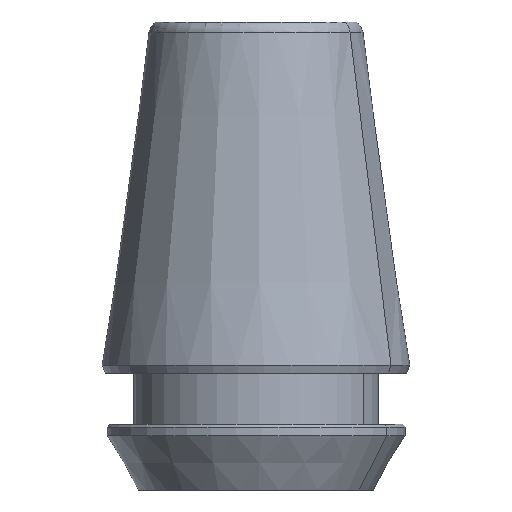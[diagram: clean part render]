
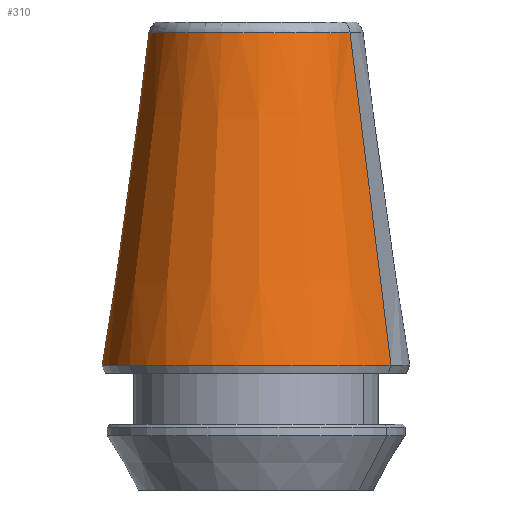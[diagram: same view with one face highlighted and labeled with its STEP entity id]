
A CAD part, front view. The second image highlights one B-rep face of the part: STEP entity #310.
In plain terms, the highlighted conical face has half-angle 8 degrees and reference radius 4.166 mm.
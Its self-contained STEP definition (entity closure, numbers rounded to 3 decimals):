
#254=AXIS2_PLACEMENT_3D('Circle Axis2P3D',#252,#253,$) ;
#275=AXIS2_PLACEMENT_3D('Cone Axis2P3D',#272,#273,#274) ;
#293=AXIS2_PLACEMENT_3D('Circle Axis2P3D',#291,#292,$) ;
#300=AXIS2_PLACEMENT_3D('Circle Axis2P3D',#298,#299,$) ;
#249=CARTESIAN_POINT('Vertex',(-3.656,1.997,-0.415)) ;
#252=CARTESIAN_POINT('Axis2P3D Location',(0.,0.,-0.415)) ;
#256=CARTESIAN_POINT('Vertex',(3.656,-1.997,-0.415)) ;
#272=CARTESIAN_POINT('Axis2P3D Location',(0.,0.,-0.415)) ;
#277=CARTESIAN_POINT('Line Origine',(61069.771,-33362.568,-495119.628)) ;
#281=CARTESIAN_POINT('Vertex',(5.252,-2.869,-13.353)) ;
#284=CARTESIAN_POINT('Line Origine',(-61069.771,33362.568,-495119.628)) ;
#288=CARTESIAN_POINT('Vertex',(-5.252,2.869,-13.353)) ;
#291=CARTESIAN_POINT('Axis2P3D Location',(0.,0.,-13.353)) ;
#295=CARTESIAN_POINT('Vertex',(-4.92,-3.406,-13.353)) ;
#298=CARTESIAN_POINT('Axis2P3D Location',(0.,0.,-13.353)) ;
#253=DIRECTION('Axis2P3D Direction',(0.,0.,-1.)) ;
#273=DIRECTION('Axis2P3D Direction',(0.,0.,-1.)) ;
#274=DIRECTION('Axis2P3D XDirection',(0.878,-0.479,0.)) ;
#278=DIRECTION('Vector Direction',(0.122,-0.067,-0.99)) ;
#285=DIRECTION('Vector Direction',(-0.122,0.067,-0.99)) ;
#292=DIRECTION('Axis2P3D Direction',(0.,0.,-1.)) ;
#299=DIRECTION('Axis2P3D Direction',(0.,0.,-1.)) ;
#279=VECTOR('Line Direction',#278,1.) ;
#286=VECTOR('Line Direction',#285,1.) ;
#304=ORIENTED_EDGE('',*,*,#283,.F.) ;
#305=ORIENTED_EDGE('',*,*,#258,.T.) ;
#306=ORIENTED_EDGE('',*,*,#290,.T.) ;
#307=ORIENTED_EDGE('',*,*,#297,.F.) ;
#308=ORIENTED_EDGE('',*,*,#302,.F.) ;
#310=ADVANCED_FACE('NOCUT',(#309),#276,.T.) ;
#255=CIRCLE('generated circle',#254,4.166) ;
#294=CIRCLE('generated circle',#293,5.984) ;
#301=CIRCLE('generated circle',#300,5.984) ;
#276=CONICAL_SURFACE('Cone',#275,4.166,0.14) ;
#258=EDGE_CURVE('',#257,#250,#255,.T.) ;
#283=EDGE_CURVE('',#257,#282,#280,.T.) ;
#290=EDGE_CURVE('',#250,#289,#287,.T.) ;
#297=EDGE_CURVE('',#296,#289,#294,.T.) ;
#302=EDGE_CURVE('',#282,#296,#301,.T.) ;
#303=EDGE_LOOP('',(#304,#305,#306,#307,#308)) ;
#309=FACE_OUTER_BOUND('',#303,.T.) ;
#280=LINE('Line',#277,#279) ;
#287=LINE('Line',#284,#286) ;
#250=VERTEX_POINT('',#249) ;
#257=VERTEX_POINT('',#256) ;
#282=VERTEX_POINT('',#281) ;
#289=VERTEX_POINT('',#288) ;
#296=VERTEX_POINT('',#295) ;
